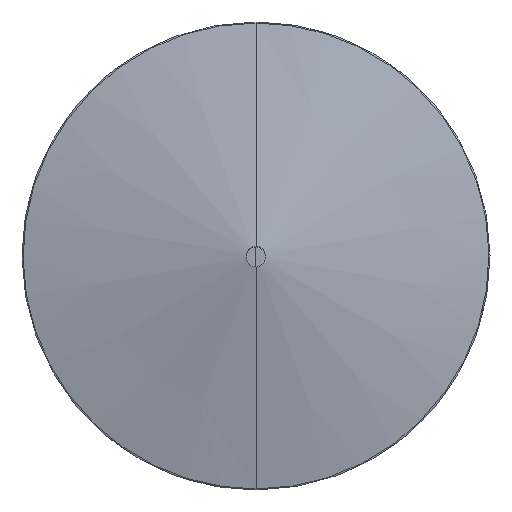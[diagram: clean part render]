
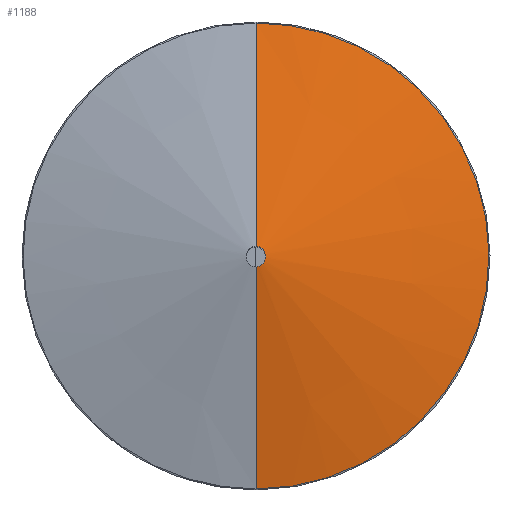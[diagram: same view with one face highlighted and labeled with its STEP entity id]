
A CAD part, top view. The second image highlights one B-rep face of the part: STEP entity #1188.
In plain terms, the highlighted conical face has half-angle 78.221 degrees and reference radius 23.85 mm.
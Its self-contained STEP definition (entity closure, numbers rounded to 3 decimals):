
#57=B_SPLINE_CURVE_WITH_KNOTS('',3,(#3129,#3130,#3131,#3132,#3133,#3134,
#3135,#3136,#3137,#3138,#3139,#3140,#3141,#3142,#3143),.UNSPECIFIED.,.F.,
 .F.,(4,1,1,1,1,1,1,1,1,1,1,1,4),(0.,0.083,0.167,
0.25,0.333,0.417,0.5,0.583,0.667,
0.75,0.833,0.917,1.),.UNSPECIFIED.);
#93=CONICAL_SURFACE('',#1353,23.85,1.365);
#215=FACE_OUTER_BOUND('',#307,.T.);
#307=EDGE_LOOP('',(#1053,#1054,#1055,#1056));
#379=CIRCLE('',#1354,7.147);
#445=LINE('',#3146,#515);
#446=LINE('',#3149,#516);
#515=VECTOR('',#1735,304.8);
#516=VECTOR('',#1738,304.8);
#599=VERTEX_POINT('',#3007);
#600=VERTEX_POINT('',#3060);
#601=VERTEX_POINT('',#3145);
#602=VERTEX_POINT('',#3147);
#750=EDGE_CURVE('',#599,#600,#57,.T.);
#751=EDGE_CURVE('',#601,#599,#445,.T.);
#753=EDGE_CURVE('',#600,#602,#446,.T.);
#754=EDGE_CURVE('',#601,#602,#379,.T.);
#1053=ORIENTED_EDGE('',*,*,#750,.T.);
#1054=ORIENTED_EDGE('',*,*,#753,.T.);
#1055=ORIENTED_EDGE('',*,*,#754,.F.);
#1056=ORIENTED_EDGE('',*,*,#751,.T.);
#1188=ADVANCED_FACE('',(#215),#93,.T.);
#1353=AXIS2_PLACEMENT_3D('',#3150,#1739,#1740);
#1354=AXIS2_PLACEMENT_3D('',#3151,#1741,#1742);
#1735=DIRECTION('',(0.,0.979,-0.204));
#1738=DIRECTION('',(0.,0.979,0.204));
#1739=DIRECTION('center_axis',(0.,0.,-1.));
#1740=DIRECTION('ref_axis',(-0.588,-0.809,0.));
#1741=DIRECTION('center_axis',(0.,0.,1.));
#1742=DIRECTION('ref_axis',(-0.588,-0.809,0.));
#3007=CARTESIAN_POINT('',(0.,174.182,-34.832));
#3060=CARTESIAN_POINT('',(0.,-174.182,-34.832));
#3129=CARTESIAN_POINT('Ctrl Pts',(0.,174.182,
-34.832));
#3130=CARTESIAN_POINT('Ctrl Pts',(-15.213,174.229,-34.832));
#3131=CARTESIAN_POINT('Ctrl Pts',(-45.594,170.158,-34.832));
#3132=CARTESIAN_POINT('Ctrl Pts',(-88.093,152.585,-34.832));
#3133=CARTESIAN_POINT('Ctrl Pts',(-124.58,124.579,-34.832));
#3134=CARTESIAN_POINT('Ctrl Pts',(-152.579,88.092,-34.832));
#3135=CARTESIAN_POINT('Ctrl Pts',(-170.18,45.599,-34.832));
#3136=CARTESIAN_POINT('Ctrl Pts',(-176.183,0.,
-34.832));
#3137=CARTESIAN_POINT('Ctrl Pts',(-170.18,-45.599,-34.832));
#3138=CARTESIAN_POINT('Ctrl Pts',(-152.579,-88.092,-34.832));
#3139=CARTESIAN_POINT('Ctrl Pts',(-124.58,-124.579,-34.832));
#3140=CARTESIAN_POINT('Ctrl Pts',(-88.093,-152.585,-34.832));
#3141=CARTESIAN_POINT('Ctrl Pts',(-45.594,-170.158,-34.832));
#3142=CARTESIAN_POINT('Ctrl Pts',(-15.213,-174.229,-34.832));
#3143=CARTESIAN_POINT('Ctrl Pts',(0.,-174.182,
-34.832));
#3145=CARTESIAN_POINT('',(0.,7.147,0.));
#3146=CARTESIAN_POINT('',(0.,7.147,0.));
#3147=CARTESIAN_POINT('',(0.,-7.147,0.));
#3149=CARTESIAN_POINT('',(0.,-174.182,-34.832));
#3150=CARTESIAN_POINT('Origin',(0.,0.,
-3.483));
#3151=CARTESIAN_POINT('Origin',(0.,0.,
0.));
